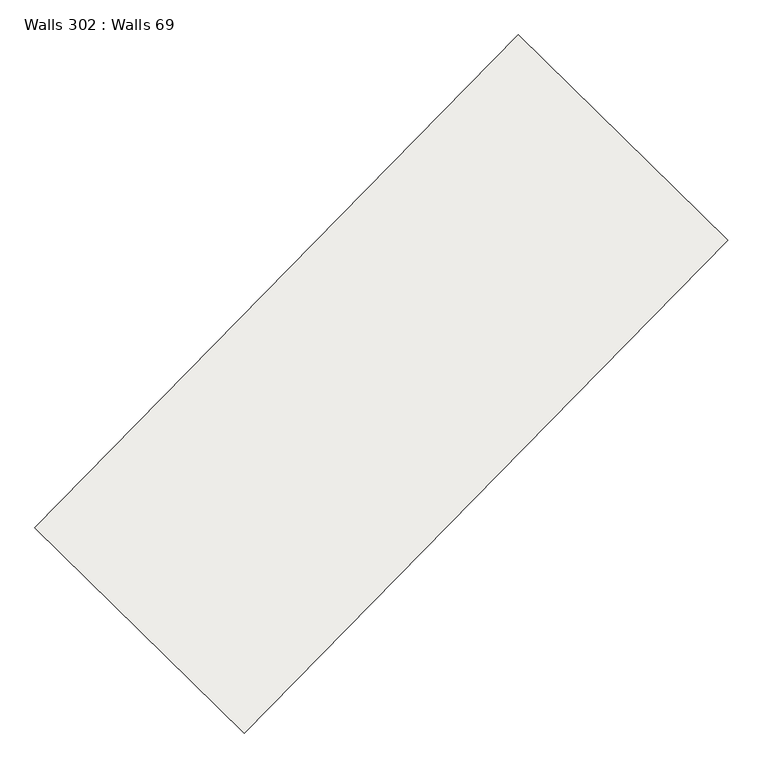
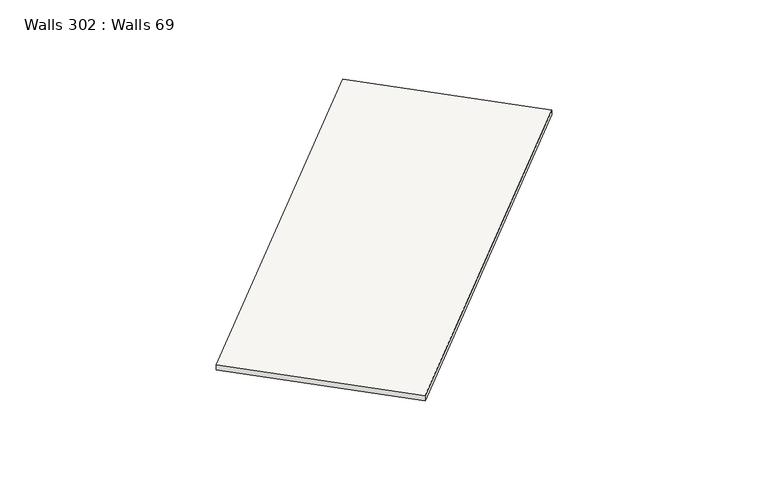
"""IFC4 building model written with IfcOpenShell, lengths in millimetres: slab geometry, Walls 302 : Walls 69."""

from ifc_helpers import new_model, si_unit, origin, place, context, project, spatial, faceted_brep, source, transform, mapped, element, save


def walls_302_walls_69_91e51548(model_context):
    return source(origin(), model_context, "Body", "Brep", [
        faceted_brep([(27877.0205157, -125655.0918344, 638540.0), (27877.0205157, -125655.0918344, 638440.0), (30517.8443239, -128246.6260474, 638440.0), (30517.8443239, -128246.6260474, 638540.0), (33970.626748, -119445.5859701, 638630.0), (36611.4505597, -122037.1201866, 638630.0), (36611.4505597, -122037.1201866, 638530.0), (33970.626748, -119445.5859701, 638530.0)], [[[0, 1, 2, 3]], [[4, 5, 6, 7]], [[5, 4, 0, 3]], [[7, 6, 2, 1]], [[4, 7, 1, 0]], [[6, 5, 3, 2]]]),
    ])


if __name__ == "__main__":
    model = new_model("IFC4")
    model_context = context("Model", 3, world=origin())
    ifc_project = project(units=[si_unit("LENGTHUNIT", "METRE", prefix="MILLI")], contexts=[model_context])
    site = spatial("IfcSite", under=ifc_project)
    building = spatial("IfcBuilding", under=site)
    placement = place(None, origin())
    walls_302_walls_69_shape = walls_302_walls_69_91e51548(model_context)
    element("IfcSlab", 1, ObjectType="Walls 302 : Walls 69", at=placement, inside=building, context=model_context, shape_type="MappedRepresentation", body=[
        mapped(walls_302_walls_69_shape, transform((0.0, 0.0, 0.0), x_axis=(1.0, 0.0, 0.0), y_axis=(0.0, 1.0, 0.0), z_axis=(0.0, 0.0, 1.0))),
    ])
    save(model, "model.ifc")
